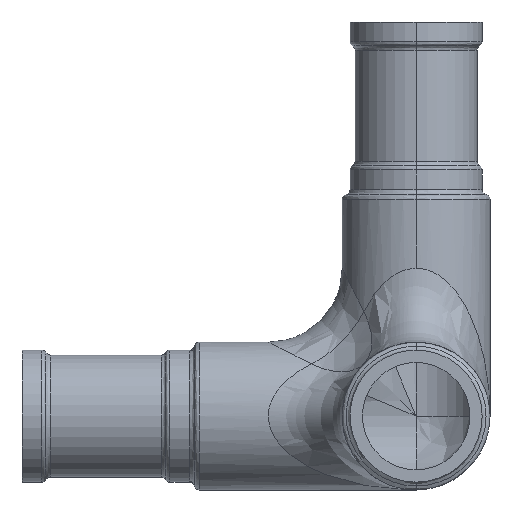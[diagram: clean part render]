
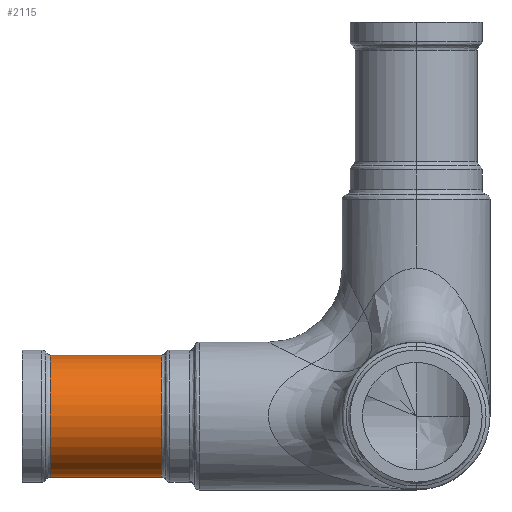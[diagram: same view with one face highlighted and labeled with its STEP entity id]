
A CAD part, left-side view. The second image highlights one B-rep face of the part: STEP entity #2115.
In plain terms, the highlighted cylindrical face has radius 12.4 mm (diameter 24.8 mm), a partial arc.
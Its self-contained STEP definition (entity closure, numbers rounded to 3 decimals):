
#300 = CARTESIAN_POINT ( 'NONE',  ( 0., 80., -45. ) ) ;
#366 = EDGE_CURVE ( 'NONE', #2875, #4717, #1672, .T. ) ;
#429 = AXIS2_PLACEMENT_3D ( 'NONE', #2006, #573, #3406 ) ;
#467 = AXIS2_PLACEMENT_3D ( 'NONE', #300, #2463, #2089 ) ;
#550 = CARTESIAN_POINT ( 'NONE',  ( 0., 80., -32.6 ) ) ;
#566 = DIRECTION ( 'NONE',  ( 0., 1., 0. ) ) ;
#573 = DIRECTION ( 'NONE',  ( 0., 1., 0. ) ) ;
#630 = CYLINDRICAL_SURFACE ( 'NONE', #467, 12.4 ) ;
#856 = CARTESIAN_POINT ( 'NONE',  ( 0., 51.732, -57.4 ) ) ;
#1255 = CIRCLE ( 'NONE', #429, 12.4 ) ;
#1335 = DIRECTION ( 'NONE',  ( 0., -1., 0. ) ) ;
#1420 = ORIENTED_EDGE ( 'NONE', *, *, #366, .T. ) ;
#1622 = EDGE_CURVE ( 'NONE', #3529, #4717, #2379, .T. ) ;
#1649 = DIRECTION ( 'NONE',  ( 0., 1., 0. ) ) ;
#1672 = CIRCLE ( 'NONE', #3186, 12.4 ) ;
#1897 = CARTESIAN_POINT ( 'NONE',  ( 0., 74.268, -32.6 ) ) ;
#2006 = CARTESIAN_POINT ( 'NONE',  ( 0., 51.732, -45. ) ) ;
#2008 = VERTEX_POINT ( 'NONE', #2368 ) ;
#2089 = DIRECTION ( 'NONE',  ( 0., 0., 1. ) ) ;
#2115 = ADVANCED_FACE ( 'NONE', ( #2749 ), #630, .T. ) ;
#2368 = CARTESIAN_POINT ( 'NONE',  ( 0., 51.732, -32.6 ) ) ;
#2379 = LINE ( 'NONE', #3823, #4635 ) ;
#2463 = DIRECTION ( 'NONE',  ( 0., 1., 0. ) ) ;
#2518 = EDGE_CURVE ( 'NONE', #2008, #2875, #3805, .T. ) ;
#2749 = FACE_OUTER_BOUND ( 'NONE', #4512, .T. ) ;
#2787 = DIRECTION ( 'NONE',  ( 0., 0., 1. ) ) ;
#2811 = CARTESIAN_POINT ( 'NONE',  ( 0., 74.268, -45. ) ) ;
#2875 = VERTEX_POINT ( 'NONE', #1897 ) ;
#2905 = ORIENTED_EDGE ( 'NONE', *, *, #1622, .F. ) ;
#2972 = VECTOR ( 'NONE', #1649, 1000. ) ;
#3101 = ORIENTED_EDGE ( 'NONE', *, *, #4518, .T. ) ;
#3186 = AXIS2_PLACEMENT_3D ( 'NONE', #2811, #1335, #2787 ) ;
#3343 = ORIENTED_EDGE ( 'NONE', *, *, #2518, .T. ) ;
#3406 = DIRECTION ( 'NONE',  ( 0., 0., 1. ) ) ;
#3529 = VERTEX_POINT ( 'NONE', #856 ) ;
#3697 = CARTESIAN_POINT ( 'NONE',  ( 0., 74.268, -57.4 ) ) ;
#3805 = LINE ( 'NONE', #550, #2972 ) ;
#3823 = CARTESIAN_POINT ( 'NONE',  ( 0., 80., -57.4 ) ) ;
#4512 = EDGE_LOOP ( 'NONE', ( #2905, #3101, #3343, #1420 ) ) ;
#4518 = EDGE_CURVE ( 'NONE', #3529, #2008, #1255, .T. ) ;
#4635 = VECTOR ( 'NONE', #566, 1000. ) ;
#4717 = VERTEX_POINT ( 'NONE', #3697 ) ;
